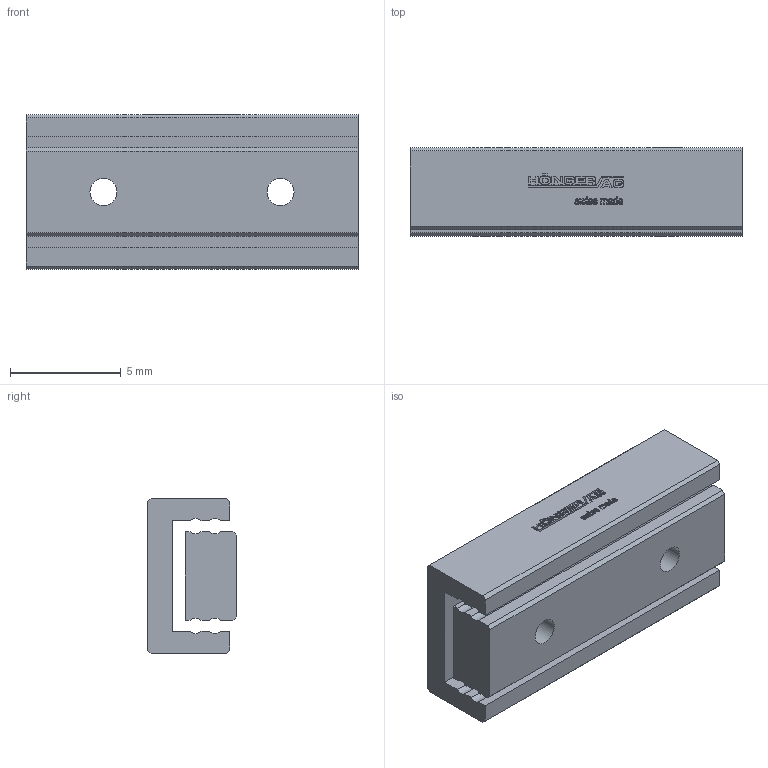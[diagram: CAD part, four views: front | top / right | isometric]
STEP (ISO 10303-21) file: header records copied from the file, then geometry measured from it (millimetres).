
FILE_DESCRIPTION(/* description */ ('STEP AP214'),/* implementation_level */ '2;1');
FILE_NAME(/* name */ 'MSK 4-15.12(0)',/* time_stamp */ '2025-04-16T16:44:02+02:00',/* author */ ('License CC BY-ND 4.0'),/* organization */ ('CADENAS'),/* preprocessor_version */ 'ST-DEVELOPER v19.3',/* originating_system */ 'PARTsolutions',/* authorisation */ ' ');
FILE_SCHEMA (('AUTOMOTIVE_DESIGN {1 0 10303 214 3 1 1}'));
Length unit declared in the file: millimetre
Products named in the file (3): MSK 4-15.12(0); MSK 4-15.12_1; MSK 4-15.12_2
Assembly tree (2 placements, depth 2):
  MSK 4-15.12(0)
    MSK 4-15.12_1
    MSK 4-15.12_2
Bounding box: 15 x 4 x 7 mm (x, y, z)
Volume: 318 mm3; surface area: 654.3 mm2
Topology: 2 solids, 2 shells, 509 faces, 1432 edges, 954 vertices
Faces by surface type: cylinder 304, plane 203, cone 2
Full cylindrical faces by diameter (mm): 1.221 x4
Entity records: 16741 total; most frequent: DIRECTION 3060, CARTESIAN_POINT 2892, ORIENTED_EDGE 2852, EDGE_CURVE 1426, AXIS2_PLACEMENT_3D 1122, VERTEX_POINT 954, LINE 816, VECTOR 816
